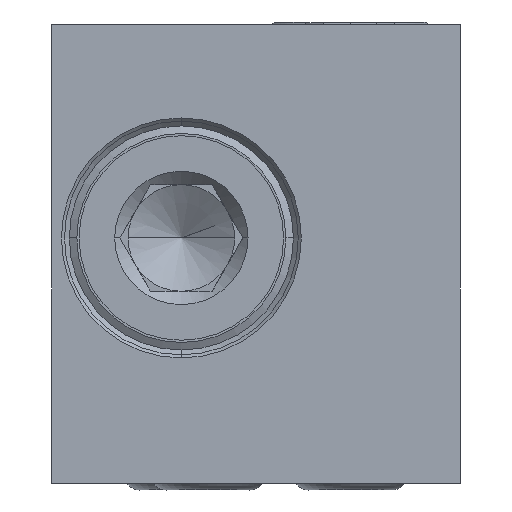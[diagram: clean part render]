
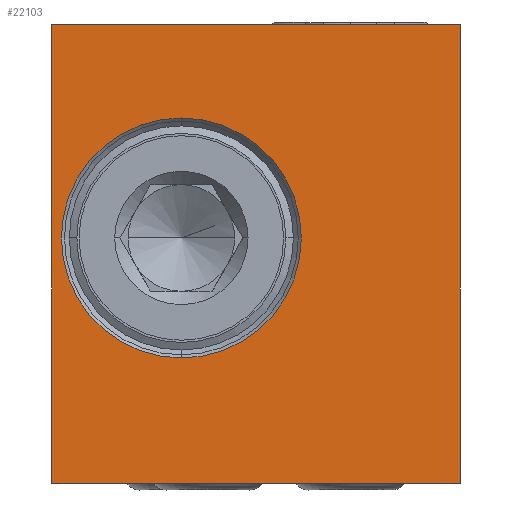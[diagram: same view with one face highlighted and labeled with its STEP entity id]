
A CAD part, left-side view. The second image highlights one B-rep face of the part: STEP entity #22103.
In plain terms, the highlighted planar face has unit normal (-1, 0, 0).
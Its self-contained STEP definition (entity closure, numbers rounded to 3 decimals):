
#4069=DIRECTION('',(0.,0.,1.));
#4070=VECTOR('',#4069,25.8);
#4071=CARTESIAN_POINT('',(-38.,11.5,-12.9));
#4072=LINE('',#4071,#4070);
#4073=DIRECTION('',(0.,-1.,0.));
#4074=VECTOR('',#4073,23.);
#4075=CARTESIAN_POINT('',(-38.,11.5,12.9));
#4076=LINE('',#4075,#4074);
#4077=DIRECTION('',(0.,0.,-1.));
#4078=VECTOR('',#4077,25.8);
#4079=CARTESIAN_POINT('',(-38.,-11.5,12.9));
#4080=LINE('',#4079,#4078);
#4081=DIRECTION('',(0.,1.,0.));
#4082=VECTOR('',#4081,23.);
#4083=CARTESIAN_POINT('',(-38.,-11.5,-12.9));
#4084=LINE('',#4083,#4082);
#4085=CARTESIAN_POINT('',(-38.,4.2,0.9));
#4086=DIRECTION('',(-1.,0.,0.));
#4087=DIRECTION('',(0.,0.,-1.));
#4088=AXIS2_PLACEMENT_3D('',#4085,#4086,#4087);
#4090=CARTESIAN_POINT('',(-38.,4.2,0.9));
#4091=DIRECTION('',(-1.,0.,0.));
#4092=DIRECTION('',(0.,0.,1.));
#4093=AXIS2_PLACEMENT_3D('',#4090,#4091,#4092);
#15103=CARTESIAN_POINT('',(-38.,11.5,12.9));
#15104=VERTEX_POINT('',#15103);
#15105=CARTESIAN_POINT('',(-38.,11.5,-12.9));
#15106=VERTEX_POINT('',#15105);
#15107=CARTESIAN_POINT('',(-38.,-11.5,12.9));
#15108=VERTEX_POINT('',#15107);
#15129=CARTESIAN_POINT('',(-38.,-11.5,-12.9));
#15130=VERTEX_POINT('',#15129);
#15175=CARTESIAN_POINT('',(-38.,4.2,-5.85));
#15176=CARTESIAN_POINT('',(-38.,4.2,7.65));
#15177=VERTEX_POINT('',#15175);
#15178=VERTEX_POINT('',#15176);
#22084=CARTESIAN_POINT('',(-38.,0.,0.));
#22085=DIRECTION('',(-1.,0.,0.));
#22086=DIRECTION('',(0.,-1.,0.));
#22087=AXIS2_PLACEMENT_3D('',#22084,#22085,#22086);
#22088=PLANE('',#22087);
#22089=ORIENTED_EDGE('',*,*,#22077,.T.);
#22090=ORIENTED_EDGE('',*,*,#19797,.T.);
#22092=ORIENTED_EDGE('',*,*,#22091,.T.);
#22094=ORIENTED_EDGE('',*,*,#22093,.T.);
#22095=EDGE_LOOP('',(#22089,#22090,#22092,#22094));
#22096=FACE_OUTER_BOUND('',#22095,.F.);
#22098=ORIENTED_EDGE('',*,*,#22097,.T.);
#22100=ORIENTED_EDGE('',*,*,#22099,.T.);
#22101=EDGE_LOOP('',(#22098,#22100));
#22102=FACE_BOUND('',#22101,.F.);
#22103=ADVANCED_FACE('',(#22096,#22102),#22088,.T.);
#4089=CIRCLE('',#4088,6.75);
#4094=CIRCLE('',#4093,6.75);
#19797=EDGE_CURVE('',#15104,#15108,#4076,.T.);
#22077=EDGE_CURVE('',#15106,#15104,#4072,.T.);
#22091=EDGE_CURVE('',#15108,#15130,#4080,.T.);
#22093=EDGE_CURVE('',#15130,#15106,#4084,.T.);
#22097=EDGE_CURVE('',#15177,#15178,#4089,.T.);
#22099=EDGE_CURVE('',#15178,#15177,#4094,.T.);
